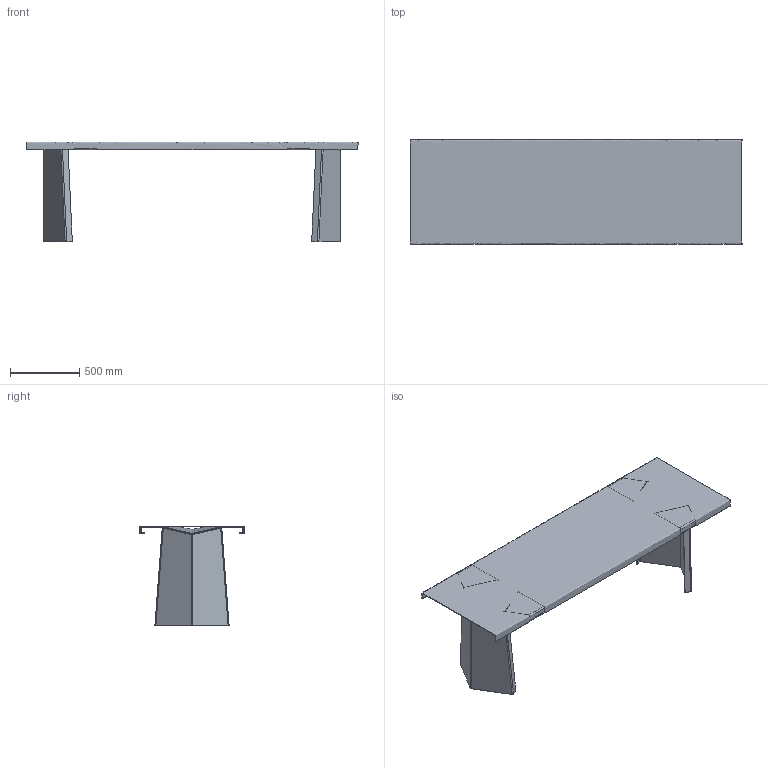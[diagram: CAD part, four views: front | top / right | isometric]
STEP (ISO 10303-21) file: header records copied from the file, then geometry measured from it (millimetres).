
FILE_DESCRIPTION(/* description */ (''),/* implementation_level */ '2;1');
FILE_NAME(/* name */ 'KG_PALLAS-240_3DL_JS_20230719',/* time_stamp */ '2023-07-19T10:21:28+02:00',/* author */ (''),/* organization */ (''),/* preprocessor_version */ 'ST-DEVELOPER v16.5',/* originating_system */ 'Rhino 7.31',/* authorisation */ '');
FILE_SCHEMA (('CONFIG_CONTROL_DESIGN'));
Length unit declared in the file: millimetre
Products named in the file (1): Document
Bounding box: 2400 x 754 x 722 mm (x, y, z)
Volume: 14242002.1 mm3; surface area: 6902471.7 mm2
Topology: 3 solids, 3 shells, 243 faces, 589 edges, 350 vertices
Faces by surface type: plane 139, cylinder 64, bspline 40
Entity records: 8030 total; most frequent: CARTESIAN_POINT 4041, ORIENTED_EDGE 1174, EDGE_CURVE 587, B_SPLINE_CURVE_WITH_KNOTS 410, VERTEX_POINT 350, ADVANCED_FACE 243, FACE_OUTER_BOUND 243, EDGE_LOOP 243
